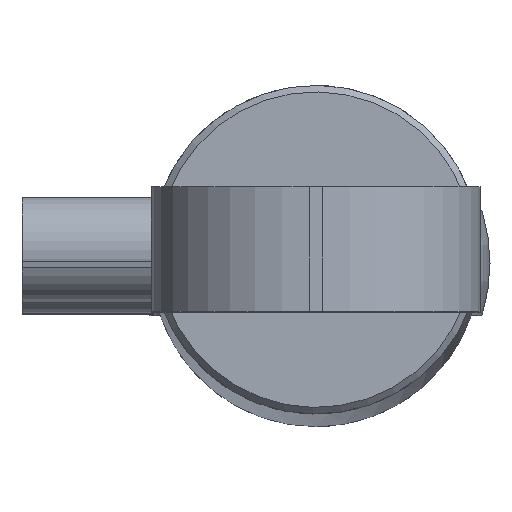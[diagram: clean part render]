
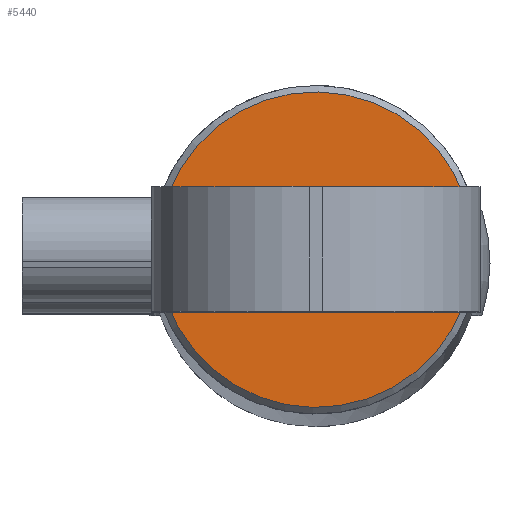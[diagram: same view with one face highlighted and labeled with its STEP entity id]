
A CAD part, top view. The second image highlights one B-rep face of the part: STEP entity #5440.
In plain terms, the highlighted planar face has unit normal (0, 0, 1) as drawn and (-1, 0, 0) by its records, which use the part's own axes.
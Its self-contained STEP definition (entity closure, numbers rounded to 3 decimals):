
#162 = DIRECTION ( 'NONE',  ( -1., 0., 0. ) ) ;
#769 = DIRECTION ( 'NONE',  ( -1., 0., 0. ) ) ;
#1305 = CIRCLE ( 'NONE', #5871, 24. ) ;
#1728 = CARTESIAN_POINT ( 'NONE',  ( 0., 0., -24. ) ) ;
#2306 = EDGE_CURVE ( 'NONE', #7608, #7244, #13841, .T. ) ;
#3135 = DIRECTION ( 'NONE',  ( 0., 0., -1. ) ) ;
#3808 = ORIENTED_EDGE ( 'NONE', *, *, #15143, .T. ) ;
#3925 = DIRECTION ( 'NONE',  ( 0., 0., -1. ) ) ;
#5440 = ADVANCED_FACE ( 'NONE', ( #13553 ), #7226, .F. ) ;
#5871 = AXIS2_PLACEMENT_3D ( 'NONE', #12780, #162, #3925 ) ;
#6658 = AXIS2_PLACEMENT_3D ( 'NONE', #14485, #769, #3135 ) ;
#6699 = AXIS2_PLACEMENT_3D ( 'NONE', #8713, #13641, #7377 ) ;
#7226 = PLANE ( 'NONE',  #6699 ) ;
#7244 = VERTEX_POINT ( 'NONE', #1728 ) ;
#7377 = DIRECTION ( 'NONE',  ( 0., 0., -1. ) ) ;
#7608 = VERTEX_POINT ( 'NONE', #13966 ) ;
#8124 = ORIENTED_EDGE ( 'NONE', *, *, #2306, .T. ) ;
#8713 = CARTESIAN_POINT ( 'NONE',  ( 0., 0., 0. ) ) ;
#10407 = EDGE_LOOP ( 'NONE', ( #3808, #8124 ) ) ;
#12780 = CARTESIAN_POINT ( 'NONE',  ( 0., 0., 0. ) ) ;
#13553 = FACE_OUTER_BOUND ( 'NONE', #10407, .T. ) ;
#13641 = DIRECTION ( 'NONE',  ( 1., 0., 0. ) ) ;
#13841 = CIRCLE ( 'NONE', #6658, 24. ) ;
#13966 = CARTESIAN_POINT ( 'NONE',  ( 0., 0., 24. ) ) ;
#14485 = CARTESIAN_POINT ( 'NONE',  ( 0., 0., 0. ) ) ;
#15143 = EDGE_CURVE ( 'NONE', #7244, #7608, #1305, .T. ) ;
